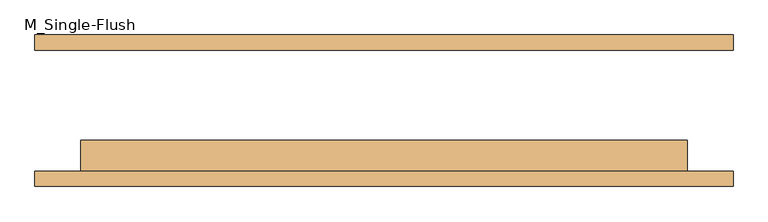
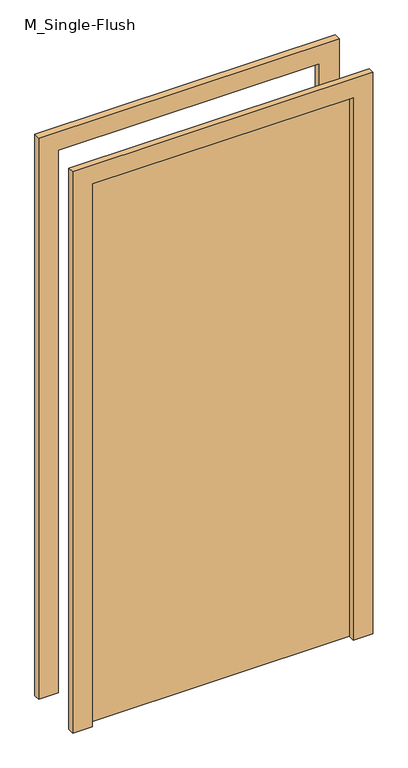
"""IFC4 building model written with IfcOpenShell, lengths in millimetres: door geometry, M_Single-Flush : ب 1."""

from ifc_helpers import new_model, si_unit, frame, origin, origin_with_axes, place, context, project, spatial, polyline, outline, extrude, source, transform, mapped, element, save


def m_single_flush_6cbb3975(model_context):
    return source(origin(), model_context, "Body", "SweptSolid", [
        extrude(outline(polyline([(2276.0, -576.0), (0.0, -576.0), (0.0, -500.0), (2200.0, -500.0), (2200.0, 500.0), (0.0, 500.0), (0.0, 576.0), (2276.0, 576.0), (2276.0, -576.0)])), frame((0.0, -125.0, 0.0), z_axis=(0.0, 1.0, 0.0), x_axis=(0.0, 0.0, 1.0)), (0.0, 0.0, 1.0), 25.0),
        extrude(outline(polyline([(2276.0, 576.0), (2276.0, -576.0), (0.0, -576.0), (0.0, -500.0), (2200.0, -500.0), (2200.0, 500.0), (0.0, 500.0), (0.0, 576.0), (2276.0, 576.0)])), frame((0.0, 100.0, 0.0), z_axis=(0.0, 1.0, 0.0), x_axis=(0.0, 0.0, 1.0)), (0.0, 0.0, 1.0), 25.0),
        extrude(outline(polyline([(500.0, -49.0), (500.0, -100.0), (-500.0, -100.0), (-500.0, -49.0), (500.0, -49.0)])), origin_with_axes(), (0.0, 0.0, 1.0), 2200.0),
    ])


if __name__ == "__main__":
    model = new_model("IFC4")
    model_context = context("Model", 3, world=origin())
    ifc_project = project(units=[si_unit("LENGTHUNIT", "METRE", prefix="MILLI")], contexts=[model_context])
    site = spatial("IfcSite", under=ifc_project)
    building = spatial("IfcBuilding", under=site)
    placement = place(None, origin())
    m_single_flush_shape = m_single_flush_6cbb3975(model_context)
    element("IfcDoor", 1, ObjectType="M_Single-Flush : ب 1", at=placement, inside=building, context=model_context, shape_type="MappedRepresentation", body=[
        mapped(m_single_flush_shape, transform((0.0, 0.0, 0.0), x_axis=(1.0, 0.0, 0.0), y_axis=(0.0, 1.0, 0.0), z_axis=(0.0, 0.0, 1.0))),
    ])
    save(model, "model.ifc")
